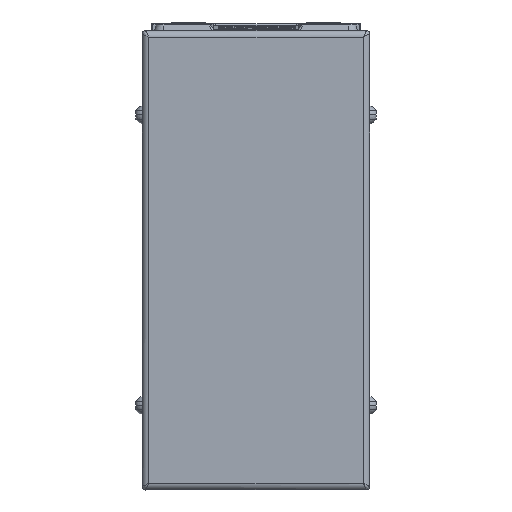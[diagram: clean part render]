
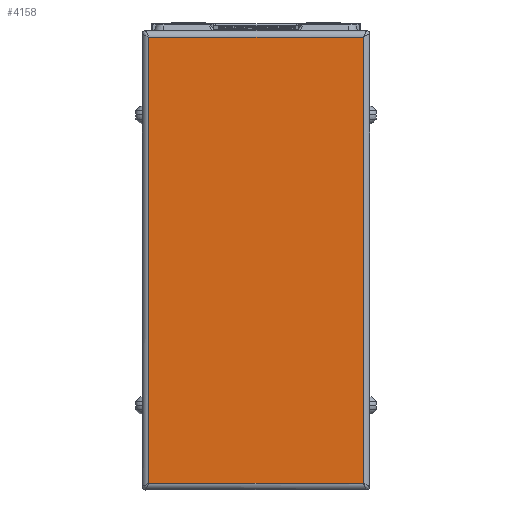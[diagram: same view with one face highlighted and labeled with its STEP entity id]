
A CAD part, left-side view. The second image highlights one B-rep face of the part: STEP entity #4158.
In plain terms, the highlighted planar face has unit normal (-1, 0, 0) as drawn and (0, 0, 1) by its records, which use the part's own axes.
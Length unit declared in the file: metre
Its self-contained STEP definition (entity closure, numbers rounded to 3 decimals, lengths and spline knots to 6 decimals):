
#4158=ADVANCED_FACE('',(#8569),#8570,.T.);
#8569=FACE_OUTER_BOUND('',#16625,.T.);
#8570=PLANE('',#16626);
#16625=EDGE_LOOP('',(#27330,#27331,#27332,#27333));
#16626=AXIS2_PLACEMENT_3D('',#27334,#27335,#27336);
#27330=ORIENTED_EDGE('',*,*,#34621,.F.);
#27331=ORIENTED_EDGE('',*,*,#35521,.F.);
#27332=ORIENTED_EDGE('',*,*,#35062,.F.);
#27333=ORIENTED_EDGE('',*,*,#35725,.F.);
#27334=CARTESIAN_POINT('',(-0.054,-0.014256,0.033889));
#27335=DIRECTION('',(0.0,0.0,1.0));
#27336=DIRECTION('',(1.0,0.0,0.0));
#34621=EDGE_CURVE('',#40868,#41425,#41426,.T.);
#35062=EDGE_CURVE('',#42023,#38135,#42026,.T.);
#35521=EDGE_CURVE('',#38135,#40868,#42636,.T.);
#35725=EDGE_CURVE('',#41425,#42023,#42882,.T.);
#38135=VERTEX_POINT('',#46019);
#40868=VERTEX_POINT('',#49865);
#41425=VERTEX_POINT('',#50751);
#41426=LINE('',#50752,#50753);
#42023=VERTEX_POINT('',#51591);
#42026=LINE('',#51603,#51604);
#42636=LINE('',#52588,#52589);
#42882=LINE('',#53043,#53044);
#46019=CARTESIAN_POINT('',(-0.12,0.017444,0.033889));
#49865=CARTESIAN_POINT('',(0.012,0.017444,0.033889));
#50751=CARTESIAN_POINT('',(0.012,-0.045956,0.033889));
#50752=CARTESIAN_POINT('',(0.012,-0.014256,0.033889));
#50753=VECTOR('',#58520,1.0);
#51591=CARTESIAN_POINT('',(-0.12,-0.045956,0.033889));
#51603=CARTESIAN_POINT('',(-0.12,-0.014256,0.033889));
#51604=VECTOR('',#58969,1.0);
#52588=CARTESIAN_POINT('',(-0.054,0.017444,0.033889));
#52589=VECTOR('',#59438,1.0);
#53043=CARTESIAN_POINT('',(-0.054,-0.045956,0.033889));
#53044=VECTOR('',#59623,1.0);
#58520=DIRECTION('',(0.0,-1.0,0.0));
#58969=DIRECTION('',(0.0,1.0,0.0));
#59438=DIRECTION('',(1.0,0.0,0.0));
#59623=DIRECTION('',(-1.0,0.0,0.0));
